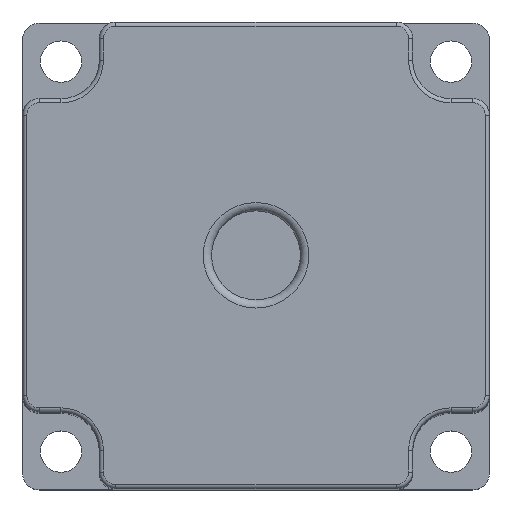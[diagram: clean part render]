
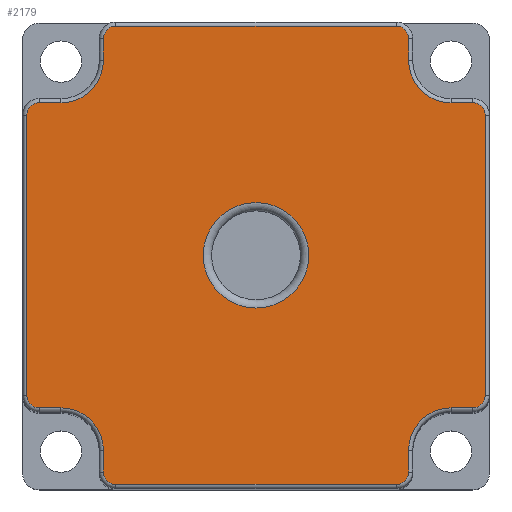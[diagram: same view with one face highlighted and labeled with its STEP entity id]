
A CAD part, top view. The second image highlights one B-rep face of the part: STEP entity #2179.
In plain terms, the highlighted planar face has unit normal (0, 0, 1).
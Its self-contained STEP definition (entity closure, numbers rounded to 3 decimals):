
#134=LINE('',#3609,#314);
#135=LINE('',#3613,#315);
#136=LINE('',#3617,#316);
#137=LINE('',#3621,#317);
#138=LINE('',#3625,#318);
#139=LINE('',#3629,#319);
#140=LINE('',#3633,#320);
#141=LINE('',#3637,#321);
#142=LINE('',#3641,#322);
#143=LINE('',#3645,#323);
#144=LINE('',#3649,#324);
#145=LINE('',#3653,#325);
#314=VECTOR('',#2910,10.);
#315=VECTOR('',#2913,10.);
#316=VECTOR('',#2916,10.);
#317=VECTOR('',#2919,10.);
#318=VECTOR('',#2922,10.);
#319=VECTOR('',#2925,10.);
#320=VECTOR('',#2928,10.);
#321=VECTOR('',#2931,10.);
#322=VECTOR('',#2934,10.);
#323=VECTOR('',#2937,10.);
#324=VECTOR('',#2940,10.);
#325=VECTOR('',#2943,10.);
#430=PLANE('',#2385);
#470=FACE_BOUND('',#692,.T.);
#543=FACE_OUTER_BOUND('',#691,.T.);
#691=EDGE_LOOP('',(#1780,#1781,#1782,#1783,#1784,#1785,#1786,#1787,#1788,
#1789,#1790,#1791,#1792,#1793,#1794,#1795,#1796,#1797,#1798,#1799,#1800,
#1801,#1802,#1803));
#692=EDGE_LOOP('',(#1804));
#821=CIRCLE('',#2382,6.375);
#823=CIRCLE('',#2386,1.5);
#824=CIRCLE('',#2387,1.5);
#825=CIRCLE('',#2388,5.13);
#826=CIRCLE('',#2389,1.5);
#827=CIRCLE('',#2390,1.5);
#828=CIRCLE('',#2391,5.13);
#829=CIRCLE('',#2392,1.5);
#830=CIRCLE('',#2393,1.5);
#831=CIRCLE('',#2394,5.13);
#832=CIRCLE('',#2395,1.5);
#833=CIRCLE('',#2396,1.5);
#834=CIRCLE('',#2397,5.13);
#1014=VERTEX_POINT('',#3601);
#1016=VERTEX_POINT('',#3607);
#1017=VERTEX_POINT('',#3608);
#1018=VERTEX_POINT('',#3610);
#1019=VERTEX_POINT('',#3612);
#1020=VERTEX_POINT('',#3614);
#1021=VERTEX_POINT('',#3616);
#1022=VERTEX_POINT('',#3618);
#1023=VERTEX_POINT('',#3620);
#1024=VERTEX_POINT('',#3622);
#1025=VERTEX_POINT('',#3624);
#1026=VERTEX_POINT('',#3626);
#1027=VERTEX_POINT('',#3628);
#1028=VERTEX_POINT('',#3630);
#1029=VERTEX_POINT('',#3632);
#1030=VERTEX_POINT('',#3634);
#1031=VERTEX_POINT('',#3636);
#1032=VERTEX_POINT('',#3638);
#1033=VERTEX_POINT('',#3640);
#1034=VERTEX_POINT('',#3642);
#1035=VERTEX_POINT('',#3644);
#1036=VERTEX_POINT('',#3646);
#1037=VERTEX_POINT('',#3648);
#1038=VERTEX_POINT('',#3650);
#1039=VERTEX_POINT('',#3652);
#1279=EDGE_CURVE('',#1014,#1014,#821,.T.);
#1281=EDGE_CURVE('',#1016,#1017,#134,.T.);
#1282=EDGE_CURVE('',#1018,#1016,#823,.T.);
#1283=EDGE_CURVE('',#1019,#1018,#135,.T.);
#1284=EDGE_CURVE('',#1020,#1019,#824,.T.);
#1285=EDGE_CURVE('',#1021,#1020,#136,.T.);
#1286=EDGE_CURVE('',#1022,#1021,#825,.T.);
#1287=EDGE_CURVE('',#1023,#1022,#137,.T.);
#1288=EDGE_CURVE('',#1024,#1023,#826,.T.);
#1289=EDGE_CURVE('',#1025,#1024,#138,.T.);
#1290=EDGE_CURVE('',#1026,#1025,#827,.T.);
#1291=EDGE_CURVE('',#1027,#1026,#139,.T.);
#1292=EDGE_CURVE('',#1028,#1027,#828,.T.);
#1293=EDGE_CURVE('',#1029,#1028,#140,.T.);
#1294=EDGE_CURVE('',#1030,#1029,#829,.T.);
#1295=EDGE_CURVE('',#1031,#1030,#141,.T.);
#1296=EDGE_CURVE('',#1032,#1031,#830,.T.);
#1297=EDGE_CURVE('',#1033,#1032,#142,.T.);
#1298=EDGE_CURVE('',#1034,#1033,#831,.T.);
#1299=EDGE_CURVE('',#1035,#1034,#143,.T.);
#1300=EDGE_CURVE('',#1036,#1035,#832,.T.);
#1301=EDGE_CURVE('',#1037,#1036,#144,.T.);
#1302=EDGE_CURVE('',#1038,#1037,#833,.T.);
#1303=EDGE_CURVE('',#1039,#1038,#145,.T.);
#1304=EDGE_CURVE('',#1017,#1039,#834,.T.);
#1780=ORIENTED_EDGE('',*,*,#1281,.F.);
#1781=ORIENTED_EDGE('',*,*,#1282,.F.);
#1782=ORIENTED_EDGE('',*,*,#1283,.F.);
#1783=ORIENTED_EDGE('',*,*,#1284,.F.);
#1784=ORIENTED_EDGE('',*,*,#1285,.F.);
#1785=ORIENTED_EDGE('',*,*,#1286,.F.);
#1786=ORIENTED_EDGE('',*,*,#1287,.F.);
#1787=ORIENTED_EDGE('',*,*,#1288,.F.);
#1788=ORIENTED_EDGE('',*,*,#1289,.F.);
#1789=ORIENTED_EDGE('',*,*,#1290,.F.);
#1790=ORIENTED_EDGE('',*,*,#1291,.F.);
#1791=ORIENTED_EDGE('',*,*,#1292,.F.);
#1792=ORIENTED_EDGE('',*,*,#1293,.F.);
#1793=ORIENTED_EDGE('',*,*,#1294,.F.);
#1794=ORIENTED_EDGE('',*,*,#1295,.F.);
#1795=ORIENTED_EDGE('',*,*,#1296,.F.);
#1796=ORIENTED_EDGE('',*,*,#1297,.F.);
#1797=ORIENTED_EDGE('',*,*,#1298,.F.);
#1798=ORIENTED_EDGE('',*,*,#1299,.F.);
#1799=ORIENTED_EDGE('',*,*,#1300,.F.);
#1800=ORIENTED_EDGE('',*,*,#1301,.F.);
#1801=ORIENTED_EDGE('',*,*,#1302,.F.);
#1802=ORIENTED_EDGE('',*,*,#1303,.F.);
#1803=ORIENTED_EDGE('',*,*,#1304,.F.);
#1804=ORIENTED_EDGE('',*,*,#1279,.F.);
#2179=ADVANCED_FACE('',(#543,#470),#430,.T.);
#2382=AXIS2_PLACEMENT_3D('',#3602,#2902,#2903);
#2385=AXIS2_PLACEMENT_3D('',#3606,#2908,#2909);
#2386=AXIS2_PLACEMENT_3D('',#3611,#2911,#2912);
#2387=AXIS2_PLACEMENT_3D('',#3615,#2914,#2915);
#2388=AXIS2_PLACEMENT_3D('',#3619,#2917,#2918);
#2389=AXIS2_PLACEMENT_3D('',#3623,#2920,#2921);
#2390=AXIS2_PLACEMENT_3D('',#3627,#2923,#2924);
#2391=AXIS2_PLACEMENT_3D('',#3631,#2926,#2927);
#2392=AXIS2_PLACEMENT_3D('',#3635,#2929,#2930);
#2393=AXIS2_PLACEMENT_3D('',#3639,#2932,#2933);
#2394=AXIS2_PLACEMENT_3D('',#3643,#2935,#2936);
#2395=AXIS2_PLACEMENT_3D('',#3647,#2938,#2939);
#2396=AXIS2_PLACEMENT_3D('',#3651,#2941,#2942);
#2397=AXIS2_PLACEMENT_3D('',#3654,#2944,#2945);
#2902=DIRECTION('center_axis',(0.,0.,1.));
#2903=DIRECTION('ref_axis',(-1.,0.,0.));
#2908=DIRECTION('center_axis',(0.,0.,1.));
#2909=DIRECTION('ref_axis',(1.,0.,0.));
#2910=DIRECTION('',(1.,0.,0.));
#2911=DIRECTION('center_axis',(0.,0.,-1.));
#2912=DIRECTION('ref_axis',(-0.707,0.707,0.));
#2913=DIRECTION('',(0.,1.,0.));
#2914=DIRECTION('center_axis',(0.,0.,-1.));
#2915=DIRECTION('ref_axis',(-0.707,-0.707,0.));
#2916=DIRECTION('',(-1.,0.,0.));
#2917=DIRECTION('center_axis',(0.,0.,1.));
#2918=DIRECTION('ref_axis',(0.707,0.707,0.));
#2919=DIRECTION('',(0.,1.,0.));
#2920=DIRECTION('center_axis',(0.,0.,-1.));
#2921=DIRECTION('ref_axis',(-0.707,-0.707,0.));
#2922=DIRECTION('',(-1.,0.,0.));
#2923=DIRECTION('center_axis',(0.,0.,-1.));
#2924=DIRECTION('ref_axis',(0.707,-0.707,0.));
#2925=DIRECTION('',(0.,-1.,0.));
#2926=DIRECTION('center_axis',(0.,0.,1.));
#2927=DIRECTION('ref_axis',(-0.707,0.707,0.));
#2928=DIRECTION('',(-1.,0.,0.));
#2929=DIRECTION('center_axis',(0.,0.,-1.));
#2930=DIRECTION('ref_axis',(0.707,-0.707,0.));
#2931=DIRECTION('',(0.,-1.,0.));
#2932=DIRECTION('center_axis',(0.,0.,-1.));
#2933=DIRECTION('ref_axis',(0.707,0.707,0.));
#2934=DIRECTION('',(1.,0.,0.));
#2935=DIRECTION('center_axis',(0.,0.,1.));
#2936=DIRECTION('ref_axis',(-0.707,-0.707,0.));
#2937=DIRECTION('',(0.,-1.,0.));
#2938=DIRECTION('center_axis',(0.,0.,-1.));
#2939=DIRECTION('ref_axis',(0.707,0.707,0.));
#2940=DIRECTION('',(1.,0.,0.));
#2941=DIRECTION('center_axis',(0.,0.,-1.));
#2942=DIRECTION('ref_axis',(-0.707,0.707,0.));
#2943=DIRECTION('',(0.,1.,0.));
#2944=DIRECTION('center_axis',(0.,0.,1.));
#2945=DIRECTION('ref_axis',(0.707,-0.707,0.));
#3601=CARTESIAN_POINT('',(6.375,0.,95.7));
#3602=CARTESIAN_POINT('Origin',(0.,0.,
95.7));
#3606=CARTESIAN_POINT('Origin',(0.,0.,95.7));
#3607=CARTESIAN_POINT('',(-26.2,18.44,95.7));
#3608=CARTESIAN_POINT('',(-23.57,18.44,95.7));
#3609=CARTESIAN_POINT('',(-11.785,18.44,95.7));
#3610=CARTESIAN_POINT('',(-27.7,16.94,95.7));
#3611=CARTESIAN_POINT('Origin',(-26.2,16.94,95.7));
#3612=CARTESIAN_POINT('',(-27.7,-16.94,95.7));
#3613=CARTESIAN_POINT('',(-27.7,9.47,95.7));
#3614=CARTESIAN_POINT('',(-26.2,-18.44,95.7));
#3615=CARTESIAN_POINT('Origin',(-26.2,-16.94,95.7));
#3616=CARTESIAN_POINT('',(-23.57,-18.44,95.7));
#3617=CARTESIAN_POINT('',(-14.1,-18.44,95.7));
#3618=CARTESIAN_POINT('',(-18.44,-23.57,95.7));
#3619=CARTESIAN_POINT('Origin',(-23.57,-23.57,95.7));
#3620=CARTESIAN_POINT('',(-18.44,-26.2,95.7));
#3621=CARTESIAN_POINT('',(-18.44,-11.785,95.7));
#3622=CARTESIAN_POINT('',(-16.94,-27.7,95.7));
#3623=CARTESIAN_POINT('Origin',(-16.94,-26.2,95.7));
#3624=CARTESIAN_POINT('',(16.94,-27.7,95.7));
#3625=CARTESIAN_POINT('',(-9.47,-27.7,95.7));
#3626=CARTESIAN_POINT('',(18.44,-26.2,95.7));
#3627=CARTESIAN_POINT('Origin',(16.94,-26.2,95.7));
#3628=CARTESIAN_POINT('',(18.44,-23.57,95.7));
#3629=CARTESIAN_POINT('',(18.44,-14.1,95.7));
#3630=CARTESIAN_POINT('',(23.57,-18.44,95.7));
#3631=CARTESIAN_POINT('Origin',(23.57,-23.57,95.7));
#3632=CARTESIAN_POINT('',(26.2,-18.44,95.7));
#3633=CARTESIAN_POINT('',(11.785,-18.44,95.7));
#3634=CARTESIAN_POINT('',(27.7,-16.94,95.7));
#3635=CARTESIAN_POINT('Origin',(26.2,-16.94,95.7));
#3636=CARTESIAN_POINT('',(27.7,16.94,95.7));
#3637=CARTESIAN_POINT('',(27.7,-9.47,95.7));
#3638=CARTESIAN_POINT('',(26.2,18.44,95.7));
#3639=CARTESIAN_POINT('Origin',(26.2,16.94,95.7));
#3640=CARTESIAN_POINT('',(23.57,18.44,95.7));
#3641=CARTESIAN_POINT('',(14.1,18.44,95.7));
#3642=CARTESIAN_POINT('',(18.44,23.57,95.7));
#3643=CARTESIAN_POINT('Origin',(23.57,23.57,95.7));
#3644=CARTESIAN_POINT('',(18.44,26.2,95.7));
#3645=CARTESIAN_POINT('',(18.44,11.785,95.7));
#3646=CARTESIAN_POINT('',(16.94,27.7,95.7));
#3647=CARTESIAN_POINT('Origin',(16.94,26.2,95.7));
#3648=CARTESIAN_POINT('',(-16.94,27.7,95.7));
#3649=CARTESIAN_POINT('',(9.47,27.7,95.7));
#3650=CARTESIAN_POINT('',(-18.44,26.2,95.7));
#3651=CARTESIAN_POINT('Origin',(-16.94,26.2,95.7));
#3652=CARTESIAN_POINT('',(-18.44,23.57,95.7));
#3653=CARTESIAN_POINT('',(-18.44,14.1,95.7));
#3654=CARTESIAN_POINT('Origin',(-23.57,23.57,95.7));
